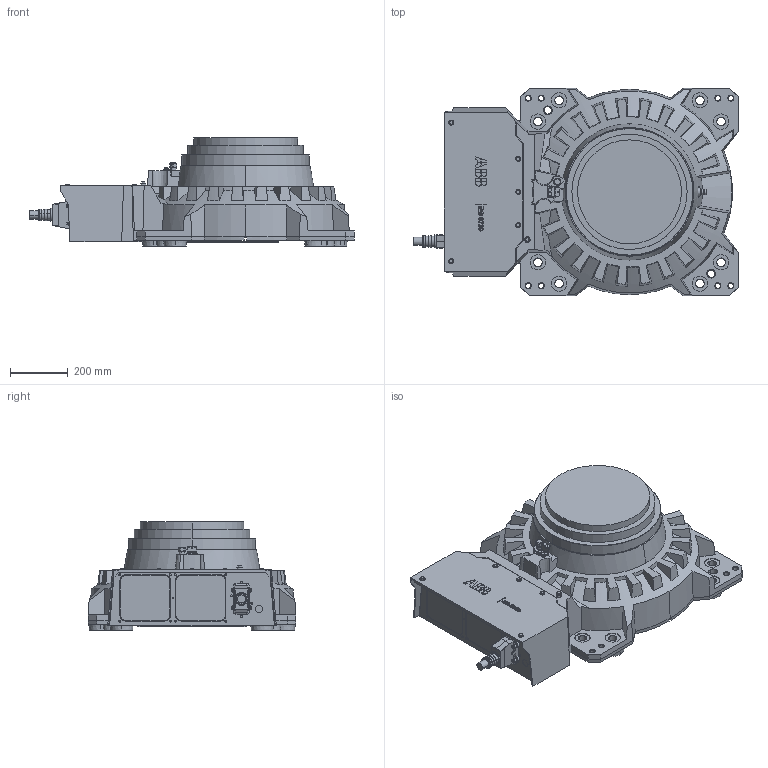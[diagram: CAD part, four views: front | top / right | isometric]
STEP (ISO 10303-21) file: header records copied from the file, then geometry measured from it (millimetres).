
FILE_DESCRIPTION (( 'STEP AP214' ), '1' );
FILE_NAME ('IRB6730-LID_190kg-310_OC_00_BASE_CAD.step', '2026-05-26T09:15:51', ( '' ), ( '' ), 'SwSTEP 2.0', 'SolidWorks 2024', '' );
FILE_SCHEMA (( 'AUTOMOTIVE_DESIGN' ));
Length unit declared in the file: millimetre
Products named in the file (1): IRB6730-LID_190kg-310_OC_00_BASE_CAD
Bounding box: 1124.5 x 720 x 374 mm (x, y, z)
Volume: 118805683 mm3; surface area: 2785974.8 mm2
Topology: 1 solids, 4 shells, 1133 faces, 2906 edges, 1884 vertices
Faces by surface type: plane 617, cylinder 257, cone 194, bspline 50, torus 11, sphere 4
Entity records: 50431 total; most frequent: CARTESIAN_POINT 10561, ORIENTED_EDGE 5804, DIRECTION 5508, EDGE_CURVE 2902, AXIS2_PLACEMENT_3D 1927, VERTEX_POINT 1884, VECTOR 1654, LINE 1654
